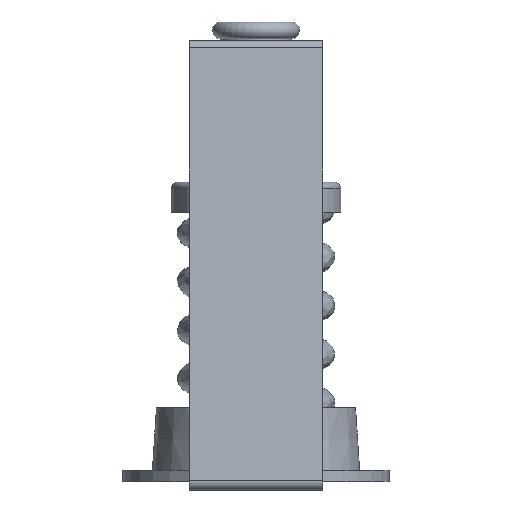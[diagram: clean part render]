
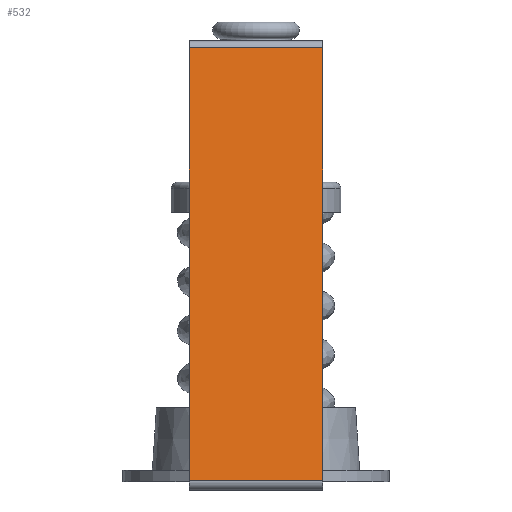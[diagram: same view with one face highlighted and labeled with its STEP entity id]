
A CAD part, front view. The second image highlights one B-rep face of the part: STEP entity #532.
In plain terms, the highlighted planar face has unit normal (0, -0.989, 0.146) as drawn and (0.989, 0.147, 0) by its records, which use the part's own axes.
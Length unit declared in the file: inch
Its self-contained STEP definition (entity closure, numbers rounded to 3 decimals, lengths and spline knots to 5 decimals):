
#467=CARTESIAN_POINT('',(2.35377,0.41417,-1.0));
#468=VERTEX_POINT('',#467);
#476=CARTESIAN_POINT('',(2.35377,0.41417,1.0));
#477=VERTEX_POINT('',#476);
#478=CARTESIAN_POINT('',(2.35377,0.41417,-1.0));
#479=DIRECTION('',(0.0,0.0,1.0));
#480=VECTOR('',#479,2.0);
#481=LINE('',#478,#480);
#482=EDGE_CURVE('',#468,#477,#481,.T.);
#502=CARTESIAN_POINT('',(1.375,7.02085,0.0));
#503=DIRECTION('',(0.989,0.147,0.0));
#504=DIRECTION('',(0.0,0.0,-1.0));
#505=AXIS2_PLACEMENT_3D('',#502,#503,#504);
#506=PLANE('',#505);
#507=ORIENTED_EDGE('',*,*,#482,.F.);
#508=CARTESIAN_POINT('',(1.3908,6.91417,-1.0));
#509=VERTEX_POINT('',#508);
#510=CARTESIAN_POINT('',(2.35377,0.41417,-1.0));
#511=DIRECTION('',(-0.147,0.989,0.0));
#512=VECTOR('',#511,6.57094);
#513=LINE('',#510,#512);
#514=EDGE_CURVE('',#468,#509,#513,.T.);
#515=ORIENTED_EDGE('',*,*,#514,.T.);
#516=CARTESIAN_POINT('',(1.3908,6.91417,1.0));
#517=VERTEX_POINT('',#516);
#518=CARTESIAN_POINT('',(1.3908,6.91417,1.0));
#519=DIRECTION('',(0.0,0.0,-1.0));
#520=VECTOR('',#519,2.0);
#521=LINE('',#518,#520);
#522=EDGE_CURVE('',#517,#509,#521,.T.);
#523=ORIENTED_EDGE('',*,*,#522,.F.);
#524=CARTESIAN_POINT('',(1.3908,6.91417,1.0));
#525=DIRECTION('',(0.147,-0.989,0.0));
#526=VECTOR('',#525,6.57094);
#527=LINE('',#524,#526);
#528=EDGE_CURVE('',#517,#477,#527,.T.);
#529=ORIENTED_EDGE('',*,*,#528,.T.);
#530=EDGE_LOOP('',(#507,#515,#523,#529));
#531=FACE_OUTER_BOUND('',#530,.T.);
#532=ADVANCED_FACE('',(#531),#506,.T.);
